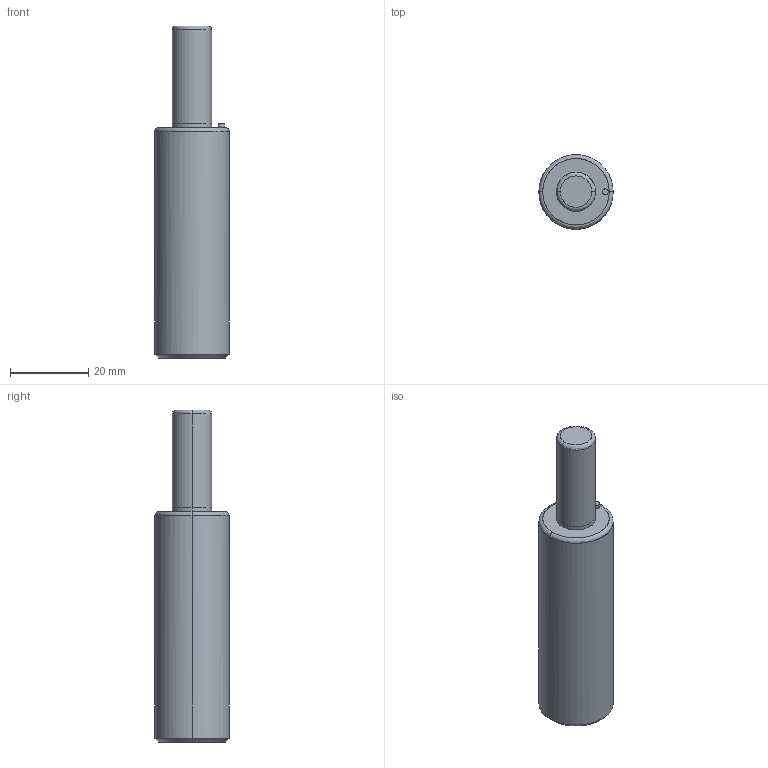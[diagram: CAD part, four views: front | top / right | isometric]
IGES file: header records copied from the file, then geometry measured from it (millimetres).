
Global section: file name: E:\UnigraphicsGraphicData\MISUMI_PRESS-PARTS\IGES\3d_mgsc19-25_04568_r00.igs; native system: NX V5.0; preprocessor: UGS NX IGES V5.0; author: MISUMI; date: 20110105.161435; units: millimetre
Bounding box: 19 x 18.99 x 85 mm (x, y, z)
Surface area: 4995.5 mm2 (no closed solid volume)
Topology: 0 solids, 0 shells, 24 faces, 136 edges, 134 vertices
Faces by surface type: bspline 24
